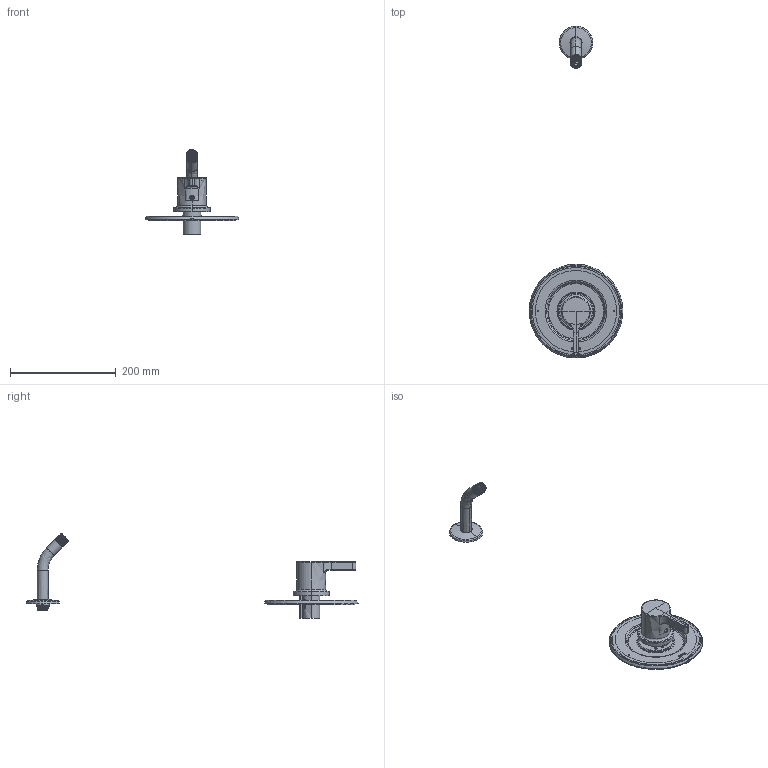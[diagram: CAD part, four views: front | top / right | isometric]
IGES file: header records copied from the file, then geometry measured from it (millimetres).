
Start section: SolidWorks IGES file using analytic representation for surfaces
Global section: file name: C:\Users\tzhang10\Desktop\T2642NH.IGS; native system: SolidWorks 2023; preprocessor: SolidWorks 2023; author: tzhang10; date: 250716.161407; units: inch
Bounding box: 177.41 x 628.43 x 160.32 mm (x, y, z)
Volume: 119554 mm3; surface area: 145333.6 mm2
Topology: 9 solids, 9 shells, 1207 faces, 3049 edges, 1817 vertices
Faces by surface type: revolution 556, plane 427, bspline 224
